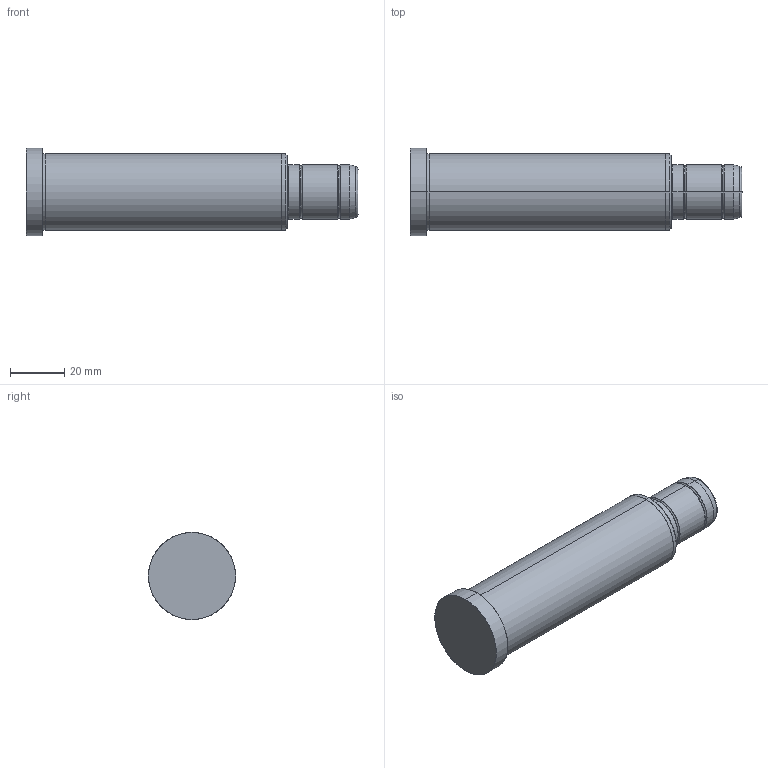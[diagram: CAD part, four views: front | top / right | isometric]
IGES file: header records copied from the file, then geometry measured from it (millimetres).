
Start section: SolidWorks IGES file using analytic representation for surfaces
Global section: file name: C:\Documents and Settings\kalite-mail\Desktop\IGS\D02\20\D02 - 20x96x26.IGS; native system: SolidWorks 2008; preprocessor: SolidWorks 2008; author: kalite-mail; date: 080616.165150; units: millimetre
Bounding box: 122 x 32 x 32 mm (x, y, z)
Surface area: 11732.3 mm2 (no closed solid volume)
Topology: 0 solids, 0 shells, 36 faces, 664 edges, 664 vertices
Faces by surface type: bspline 18, revolution 18
